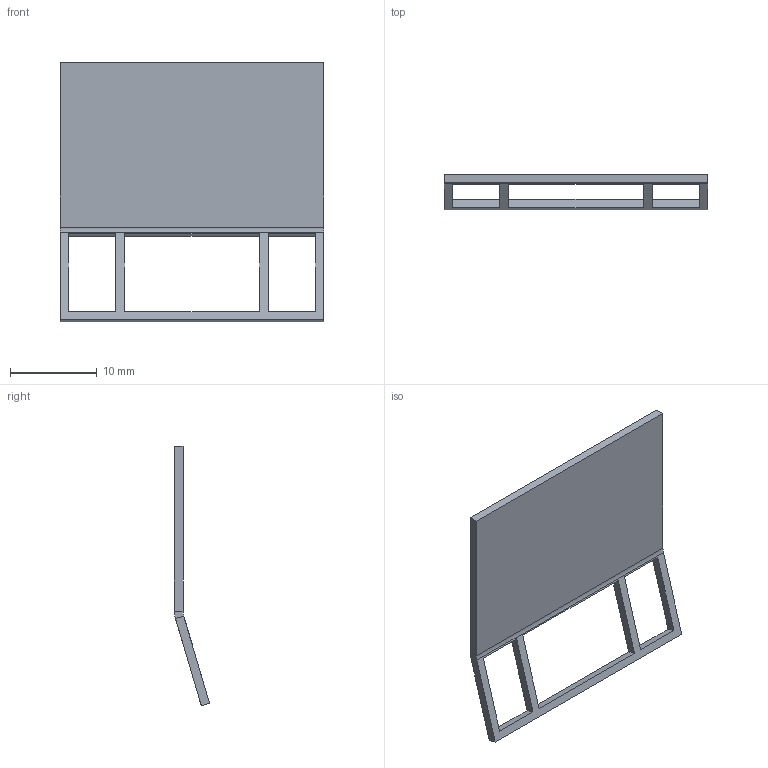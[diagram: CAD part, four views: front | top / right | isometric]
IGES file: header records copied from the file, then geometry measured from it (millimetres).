
Start section:  PTC IGES file: hyttisivu.igs
Global section: file name: hyttisivu.igs; native system: Pro/ENGINEER by Parametric Technology Corporation; preprocessor: 2004360; author: juha.telimaa; organization: Unknown; date: 060214.163703; units: millimetre
Bounding box: 30.5 x 4.07 x 30 mm (x, y, z)
Volume: 675.4 mm3; surface area: 1581.8 mm2
Topology: 1 solids, 1 shells, 26 faces, 64 edges, 40 vertices
Faces by surface type: bspline 24, revolution 2
